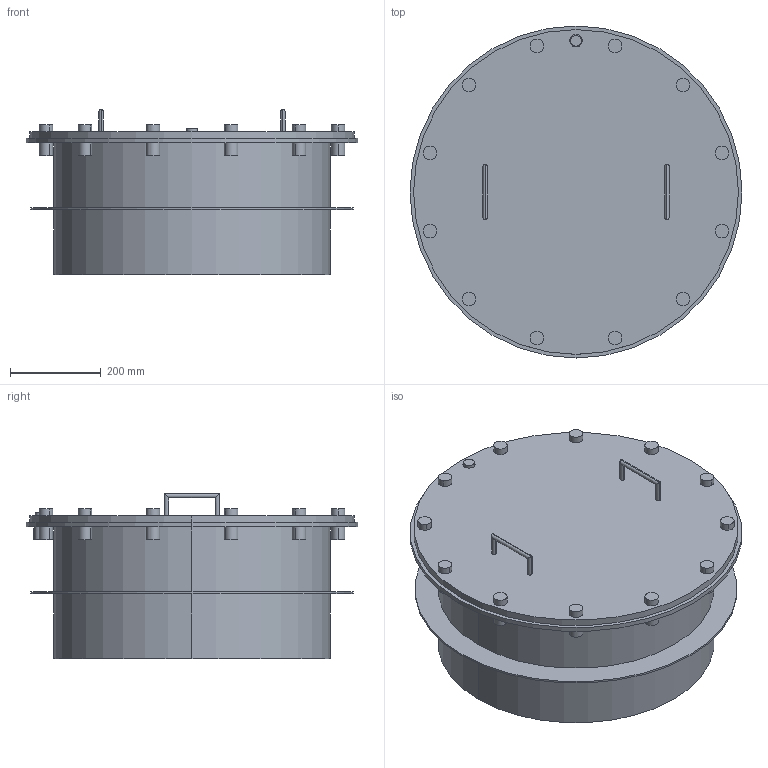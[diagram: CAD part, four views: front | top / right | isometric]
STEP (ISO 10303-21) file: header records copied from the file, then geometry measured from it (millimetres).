
FILE_DESCRIPTION((''),'2;1');
FILE_NAME('51814078','2022-05-23T10:55:49',('ka'),('HUBER SE'),'CREO PARAMETRIC BY PTC INC, 2021304','CREO PARAMETRIC BY PTC INC, 2021304','');
FILE_SCHEMA(('AUTOMOTIVE_DESIGN { 1 0 10303 214 1 1 1 1 }'));
Length unit declared in the file: millimetre
Products named in the file (1): 51814078
Bounding box: 731 x 731 x 364 mm (x, y, z)
Volume: 10432483.1 mm3; surface area: 2294275.3 mm2
Topology: 1 solids, 1 shells, 112 faces, 234 edges, 156 vertices
Faces by surface type: cylinder 78, plane 34
Entity records: 4562 total; most frequent: CARTESIAN_POINT 832, DIRECTION 582, ORIENTED_EDGE 468, AXIS2_PLACEMENT_3D 252, EDGE_CURVE 234, VERTEX_POINT 156, EDGE_LOOP 148, CIRCLE 140
